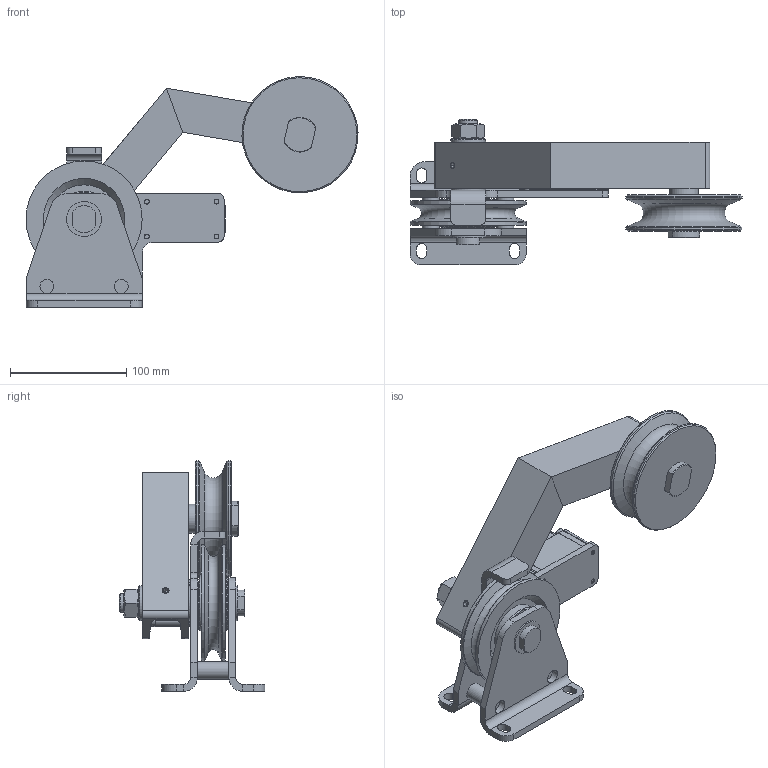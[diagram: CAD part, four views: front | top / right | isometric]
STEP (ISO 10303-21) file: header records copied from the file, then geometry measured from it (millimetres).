
FILE_DESCRIPTION(/* description */ ('Seilrolle mit Schlaffseilschalter SC 100 G komplett'),/* implementation_level */ '2;1');
FILE_NAME(/* name */ 'Z:\Workspace\03 Seilrollen\1.411 Seilrolle mit Schlaffseilschalter\1.411.03 Seilrolle mit Schlaffseilschalter SC 100 G\1.411.03 Seilrolle mit Schlaffseilschalter SC 100 G komplett.stp',/* time_stamp */ '2021-10-25T14:55:45+02:00',/* author */ ('cad-user'),/* organization */ (''),/* preprocessor_version */ 'ST-DEVELOPER v18',/* originating_system */ 'Autodesk Inventor 2020',/* authorisation */ '');
FILE_SCHEMA (('AUTOMOTIVE_DESIGN { 1 0 10303 214 3 1 1 }'));
Length unit declared in the file: millimetre
Products named in the file (23): 1.411.03 Seilrolle mit Schlaffseilschalter SC 100 G komplett; 1.411.03.01 Seilrollenbock Schlaffseilschalter Schweißteil; 1.405.03.01 Blech; 1.405.03.02 Blech; 1.405.03.01 Distanzachse; 1.401.03 Seilrolle ø100 Buchse komplett; 1.401.03 Seilrolle ø100 Buchse ; Lagerbuchse 1625-DU; 1.411.03 Seilrolle ø100 Buchse; 1.411.03.03 Arm Schweißteil; DIN1026 - U 40 - 200; DIN1026 - U 40 - 200_1; 1.411.03.06 Schraube; 1.411.03.07 Distanzring; 1.411.03.08 Achse; DIN 125-1 - B 13; DIN 985 - M12; DIN 914 - M6 x 16; 1110209000; PCMW 32 54 01.5 B Anlaufscheibe; DIN 912 - M5 x 35; DIN 125-1 - B 17; DIN 934 - M16
Assembly tree (27 placements, depth 3):
  1.411.03 Seilrolle mit Schlaffseilschalter SC 100 G komplett
    1.411.03.01 Seilrollenbock Schlaffseilschalter Schweißteil
      1.405.03.01 Blech
      1.405.03.02 Blech
      1.405.03.01 Distanzachse  x2
    1.401.03 Seilrolle ø100 Buchse komplett
      1.401.03 Seilrolle ø100 Buchse 
      Lagerbuchse 1625-DU
    1.411.03 Seilrolle ø100 Buchse
    1.411.03.03 Arm Schweißteil
      DIN1026 - U 40 - 200
      DIN1026 - U 40 - 200_1
    1.411.03.06 Schraube
    1.411.03.07 Distanzring
    1.411.03.08 Achse
    DIN 125-1 - B 13
    DIN 985 - M12
    DIN 914 - M6 x 16
    1110209000
    PCMW 32 54 01.5 B Anlaufscheibe  x2
    DIN 912 - M5 x 35  x4
    DIN 125-1 - B 17
    DIN 934 - M16
Bounding box: 285.8 x 125.5 x 198.62 mm (x, y, z)
Volume: 774064 mm3; surface area: 232056.3 mm2
Topology: 25 solids, 30 shells, 761 faces, 1962 edges, 1275 vertices
Faces by surface type: plane 478, cylinder 199, cone 66, torus 12, sphere 6
Full cylindrical faces by diameter (mm): 2.05 x4, 2.459 x1, 3.8 x4, 4 x2, 4.1 x2, 4.134 x4, 4.3 x4, 4.917 x1, 5 x4, 5.3 x2, 6 x1, 7 x2, 8.5 x4, 10 x1, 12 x5, 13 x2, 13.835 x1, 14 x1, 15 x3, 16 x5, 16.1 x2, 17 x1, 17.2 x1, 17.4 x1, 18 x2, 18.05 x1, 19.06 x1, 20 x2, 21 x1, 23.3 x1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
Entity records: 23568 total; most frequent: CARTESIAN_POINT 4415, DIRECTION 3951, ORIENTED_EDGE 3652, EDGE_CURVE 1826, AXIS2_PLACEMENT_3D 1455, VERTEX_POINT 1182, LINE 1041, VECTOR 1041
